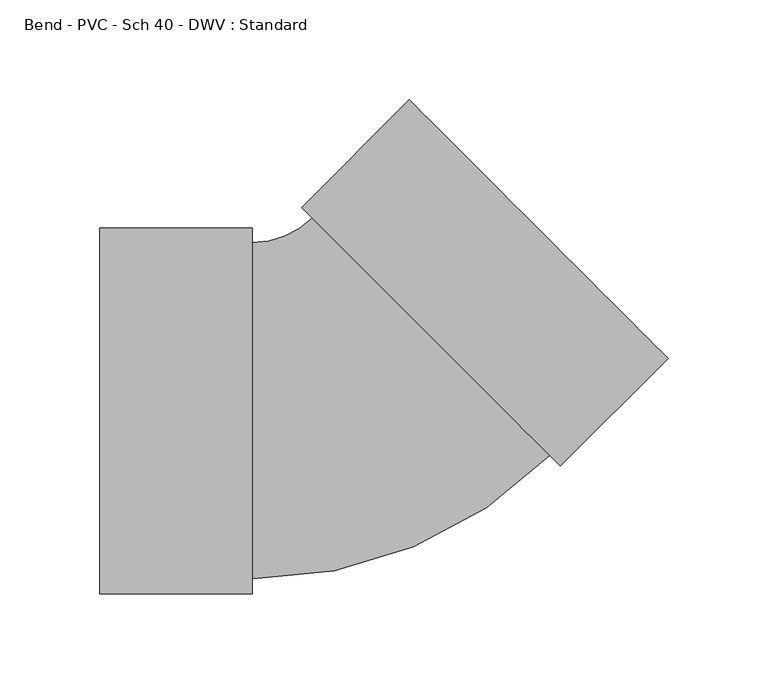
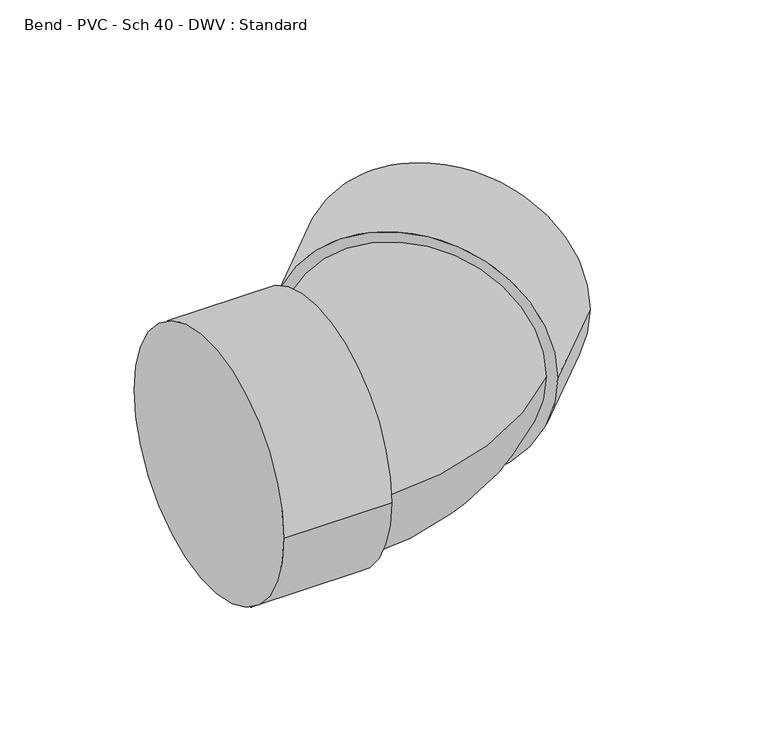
"""IFC4 building model written with IfcOpenShell, lengths in millimetres: pipe fitting geometry, Bend - PVC - Sch 40 - DWV : Standard."""

from ifc_helpers import new_model, si_unit, point, frame, origin, place, context, project, spatial, circle_curve, ellipse_curve, trimmed, source, transform, mapped, element, save
from ifc_brep_helpers import plane_surface, cylinder_surface, revolved_surface, advanced_brep


def bend_pvc_sch_40_dwv_standard_7b61f301(model_context):
    return source(origin(), model_context, "Body", "AdvancedBrep", [
        advanced_brep(
        [(-128.6002, -91.5543, 0.0), (-128.6002, 91.5543, 0.0), (-52.4002, -91.5543, 0.0), (-52.4002, 91.5543, 0.0), (-52.4002, -84.1375, 0.0), (-52.4002, 84.1375, 0.0), (-22.4373254, 96.547741, 0.0), (96.5457259, -22.4459946, 0.0), (101.78996, -27.6906996, 0.0), (-27.6815595, 101.792446, 0.0), (155.6739158, 26.188418, 0.0), (26.2023962, 155.6715636, 0.0)],
        [
            (0, 1, circle_curve(frame((-128.6002, 0.0, 0.0), z_axis=(-1.0, 0.0, 0.0), x_axis=(0.0, 1.0, 0.0)), 91.5543)),
            (1, 0, circle_curve(frame((-128.6002, 0.0, 0.0), z_axis=(-1.0, 0.0, 0.0), x_axis=(0.0, 1.0, 0.0)), 91.5543)),
            (2, 3, circle_curve(frame((-52.4002, 0.0, 0.0), z_axis=(1.0, 0.0, 0.0), x_axis=(0.0, 1.0, 0.0)), 91.5543)),
            (3, 2, circle_curve(frame((-52.4002, 0.0, 0.0), z_axis=(1.0, 0.0, 0.0), x_axis=(0.0, 1.0, 0.0)), 91.5543)),
            (4, 5, circle_curve(frame((-52.4002, 0.0, 0.0), z_axis=(-1.0, 0.0, 0.0), x_axis=(0.0, 1.0, 0.0)), 84.1375)),
            (5, 4, circle_curve(frame((-52.4002, 0.0, 0.0), z_axis=(-1.0, 0.0, 0.0), x_axis=(0.0, 1.0, 0.0)), 84.1375)),
            (0, 2),
            (3, 1),
            (6, 5, circle_curve(frame((-52.4002, 126.5133061, 0.0), z_axis=(0.0, 0.0, -1.0), x_axis=(0.0, -1.0, 0.0)), 42.3758061)),
            (4, 7, circle_curve(frame((-52.4002, 126.5133061, 0.0), z_axis=(0.0, 0.0, 1.0), x_axis=(0.0, -1.0, 0.0)), 210.6508061)),
            (7, 6, circle_curve(frame((37.0542002, 37.0508732, 0.0), z_axis=(-0.7071385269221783, -0.7070750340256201, 0.0), x_axis=(-0.7070750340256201, 0.7071385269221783, 0.0)), 84.1375)),
            (6, 7, circle_curve(frame((37.0542002, 37.0508732, 0.0), z_axis=(-0.7071385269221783, -0.7070750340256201, 0.0), x_axis=(-0.7070750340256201, 0.7071385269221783, 0.0)), 84.1375)),
            (8, 9, circle_curve(frame((37.0542002, 37.0508732, 0.0), z_axis=(-0.7071385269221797, -0.7070750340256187, 0.0), x_axis=(-0.7070750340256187, 0.7071385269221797, 0.0)), 91.5543)),
            (9, 8, circle_curve(frame((37.0542002, 37.0508732, 0.0), z_axis=(-0.7071385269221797, -0.7070750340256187, 0.0), x_axis=(-0.7070750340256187, 0.7071385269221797, 0.0)), 91.5543)),
            (10, 11, circle_curve(frame((90.938156, 90.9299908, 0.0), z_axis=(0.7071385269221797, 0.7070750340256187, 0.0), x_axis=(-0.7070750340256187, 0.7071385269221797, 0.0)), 91.5543)),
            (11, 10, circle_curve(frame((90.938156, 90.9299908, 0.0), z_axis=(0.7071385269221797, 0.7070750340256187, 0.0), x_axis=(-0.7070750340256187, 0.7071385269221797, 0.0)), 91.5543)),
            (8, 10),
            (11, 9),
        ],
        [
            plane_surface(frame((-128.6002, 0.0, 0.0), z_axis=(-1.0, 0.0, 0.0), x_axis=(0.0, 0.0, 1.0))),
            plane_surface(frame((-52.4002, 0.0, 0.0), z_axis=(1.0, 0.0, 0.0), x_axis=(0.0, 0.0, 1.0))),
            cylinder_surface(frame((-128.6002, 0.0, 0.0), z_axis=(-1.0, 0.0, 0.0), x_axis=(0.0, 1.0, 0.0)), 91.5543),
            revolved_surface(trimmed(ellipse_curve(frame((-52.4002, 0.0, 0.0), z_axis=(-1.0, 0.0, 0.0), x_axis=(0.0, 1.0, 0.0)), 84.1375, 84.1375), [point((-52.4002, -84.1375, 0.0))], [point((-52.4002, 84.1375, 0.0))], True, "CARTESIAN"), (-52.4002, 126.5133061, 0.0), (0.0, 0.0, 1.0)),
            revolved_surface(trimmed(ellipse_curve(frame((-52.4002, 0.0, 0.0), z_axis=(-1.0, 0.0, 0.0), x_axis=(0.0, 1.0, 0.0)), 84.1375, 84.1375), [point((-52.4002, 84.1375, 0.0))], [point((-52.4002, -84.1375, 0.0))], True, "CARTESIAN"), (-52.4002, 126.5133061, 0.0), (0.0, 0.0, 1.0)),
            plane_surface(frame((37.0542002, 37.0508732, 0.0), z_axis=(-0.7071385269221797, -0.7070750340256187, 0.0), x_axis=(0.0, 0.0, 1.0))),
            plane_surface(frame((90.938156, 90.9299908, 0.0), z_axis=(0.7071385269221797, 0.7070750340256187, 0.0), x_axis=(0.0, 0.0, 1.0))),
            cylinder_surface(frame((37.0542002, 37.0508732, 0.0), z_axis=(-0.7071385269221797, -0.7070750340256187, 0.0), x_axis=(-0.7070750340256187, 0.7071385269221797, 0.0)), 91.5543),
        ],
        [
            (0, [[1, 2]]),
            (1, [[3, 4], [5, 6]]),
            (2, [[-1, 7, -4, 8]]),
            (2, [[-2, -8, -3, -7]]),
            (3, [[9, -5, 10, 11]]),
            (4, [[-9, 12, -10, -6]]),
            (5, [[13, 14], [-11, -12]]),
            (6, [[15, 16]]),
            (7, [[-13, 17, -16, 18]]),
            (7, [[-14, -18, -15, -17]]),
        ],
    ),
    ])


if __name__ == "__main__":
    model = new_model("IFC4")
    model_context = context("Model", 3, world=origin())
    ifc_project = project(units=[si_unit("LENGTHUNIT", "METRE", prefix="MILLI")], contexts=[model_context])
    site = spatial("IfcSite", under=ifc_project)
    building = spatial("IfcBuilding", under=site)
    placement = place(None, origin())
    bend_pvc_sch_40_dwv_standard_shape = bend_pvc_sch_40_dwv_standard_7b61f301(model_context)
    element("IfcPipeFitting", 1, ObjectType="Bend - PVC - Sch 40 - DWV : Standard", at=placement, inside=building, context=model_context, shape_type="MappedRepresentation", body=[
        mapped(bend_pvc_sch_40_dwv_standard_shape, transform((0.0, 0.0, 0.0), x_axis=(1.0, 0.0, 0.0), y_axis=(0.0, 1.0, 0.0), z_axis=(0.0, 0.0, 1.0))),
    ])
    save(model, "model.ifc")
